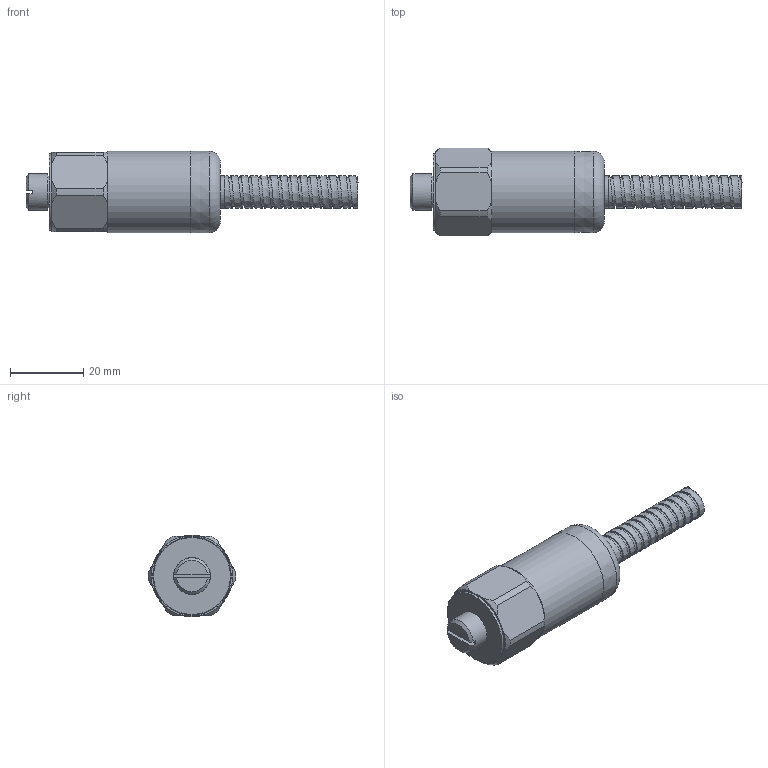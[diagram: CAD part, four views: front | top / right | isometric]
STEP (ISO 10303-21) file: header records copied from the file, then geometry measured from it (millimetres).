
FILE_DESCRIPTION(/* description */ (''),/* implementation_level */ '2;1');
FILE_NAME(/* name */ 'Z:\Engineering\Drawings\3D Library\Assemblies\Website\Premium Top\HS-150 Top FEP Cable with Protective Conduit\HS-150XXX30C10.stp',/* time_stamp */ '2023-03-02T22:53:11+00:00',/* author */ ('Ricardo.Peneda'),/* organization */ (''),/* preprocessor_version */ 'ST-DEVELOPER v18.1',/* originating_system */ 'Autodesk Inventor 2021',/* authorisation */ '');
FILE_SCHEMA (('AUTOMOTIVE_DESIGN { 1 0 10303 214 3 1 1 }'));
Length unit declared in the file: inch
Products named in the file (1): HS-150XXX30C10_Shrinkwrap_1
Bounding box: 90.6 x 23.99 x 22.22 mm (x, y, z)
Volume: 13198.1 mm3; surface area: 10651.6 mm2
Topology: 4 solids, 4 shells, 102 faces, 275 edges, 190 vertices
Faces by surface type: plane 38, cone 37, cylinder 18, bspline 8, torus 1
Full cylindrical faces by diameter (mm): 5 x1, 5.359 x1, 6.35 x1, 7 x1, 7.5 x1, 8.5 x1, 9 x1, 10 x1, 15.055 x1, 20 x1, 21 x1, 22.2 x1
Entity records: 17375 total; most frequent: CARTESIAN_POINT 14649, DIRECTION 552, ORIENTED_EDGE 548, EDGE_CURVE 274, AXIS2_PLACEMENT_3D 231, VERTEX_POINT 190, CIRCLE 136, EDGE_LOOP 114
